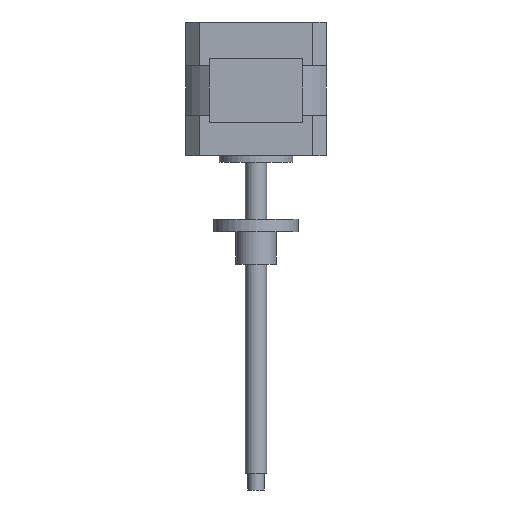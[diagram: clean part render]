
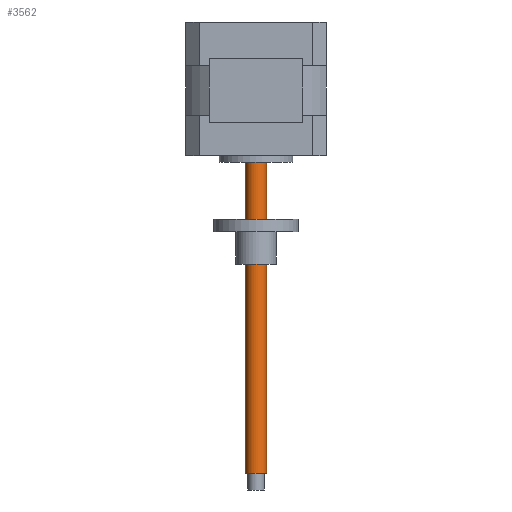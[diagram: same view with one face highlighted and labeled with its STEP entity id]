
A CAD part, front view. The second image highlights one B-rep face of the part: STEP entity #3562.
In plain terms, the highlighted cylindrical face has radius 3.175 mm (diameter 6.35 mm), a partial arc.
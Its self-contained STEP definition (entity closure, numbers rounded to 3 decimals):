
#187 = EDGE_CURVE ( 'NONE', #6090, #6581, #4800, .T. ) ;
#190 = DIRECTION ( 'NONE',  ( -1., 0., 0. ) ) ;
#445 = DIRECTION ( 'NONE',  ( 0., 0., 1. ) ) ;
#482 = AXIS2_PLACEMENT_3D ( 'NONE', #2348, #5417, #190 ) ;
#490 = VECTOR ( 'NONE', #1214, 1000. ) ;
#495 = AXIS2_PLACEMENT_3D ( 'NONE', #2573, #445, #971 ) ;
#583 = ORIENTED_EDGE ( 'NONE', *, *, #3972, .F. ) ;
#738 = VERTEX_POINT ( 'NONE', #6726 ) ;
#971 = DIRECTION ( 'NONE',  ( 1., 0., 0. ) ) ;
#1163 = VECTOR ( 'NONE', #4603, 1000. ) ;
#1214 = DIRECTION ( 'NONE',  ( 0., 0., 1. ) ) ;
#1559 = EDGE_CURVE ( 'NONE', #6090, #738, #5130, .T. ) ;
#1798 = DIRECTION ( 'NONE',  ( 0., 0., -1. ) ) ;
#1864 = EDGE_LOOP ( 'NONE', ( #583, #6647, #3175, #3963 ) ) ;
#2093 = CYLINDRICAL_SURFACE ( 'NONE', #495, 3.175 ) ;
#2327 = CARTESIAN_POINT ( 'NONE',  ( 3.175, 0., 29. ) ) ;
#2348 = CARTESIAN_POINT ( 'NONE',  ( 0., 0., -76. ) ) ;
#2573 = CARTESIAN_POINT ( 'NONE',  ( 0., 0., -390. ) ) ;
#3012 = CARTESIAN_POINT ( 'NONE',  ( 3.175, 0., -390. ) ) ;
#3175 = ORIENTED_EDGE ( 'NONE', *, *, #187, .T. ) ;
#3527 = FACE_OUTER_BOUND ( 'NONE', #1864, .T. ) ;
#3562 = ADVANCED_FACE ( 'NONE', ( #3527 ), #2093, .T. ) ;
#3963 = ORIENTED_EDGE ( 'NONE', *, *, #6570, .T. ) ;
#3972 = EDGE_CURVE ( 'NONE', #738, #5835, #5501, .T. ) ;
#4203 = CIRCLE ( 'NONE', #6736, 3.175 ) ;
#4603 = DIRECTION ( 'NONE',  ( 0., 0., 1. ) ) ;
#4800 = LINE ( 'NONE', #3012, #490 ) ;
#5048 = CARTESIAN_POINT ( 'NONE',  ( 0., 0., 29. ) ) ;
#5130 = CIRCLE ( 'NONE', #482, 3.175 ) ;
#5417 = DIRECTION ( 'NONE',  ( 0., 0., -1. ) ) ;
#5501 = LINE ( 'NONE', #6274, #1163 ) ;
#5618 = DIRECTION ( 'NONE',  ( -1., 0., 0. ) ) ;
#5835 = VERTEX_POINT ( 'NONE', #6042 ) ;
#6042 = CARTESIAN_POINT ( 'NONE',  ( -3.175, 0., 29. ) ) ;
#6090 = VERTEX_POINT ( 'NONE', #6254 ) ;
#6254 = CARTESIAN_POINT ( 'NONE',  ( 3.175, 0., -76. ) ) ;
#6274 = CARTESIAN_POINT ( 'NONE',  ( -3.175, 0., -390. ) ) ;
#6570 = EDGE_CURVE ( 'NONE', #6581, #5835, #4203, .T. ) ;
#6581 = VERTEX_POINT ( 'NONE', #2327 ) ;
#6647 = ORIENTED_EDGE ( 'NONE', *, *, #1559, .F. ) ;
#6726 = CARTESIAN_POINT ( 'NONE',  ( -3.175, 0., -76. ) ) ;
#6736 = AXIS2_PLACEMENT_3D ( 'NONE', #5048, #1798, #5618 ) ;
